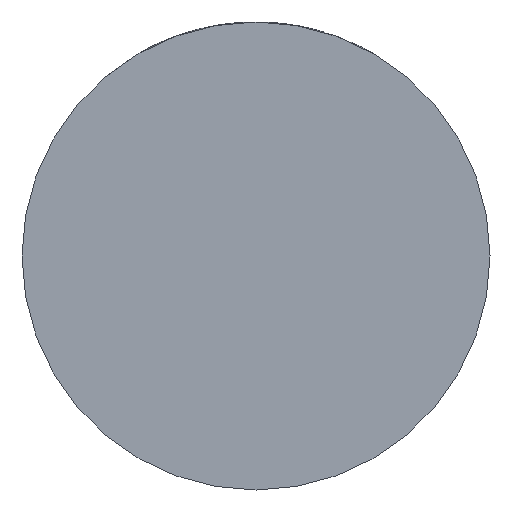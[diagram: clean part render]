
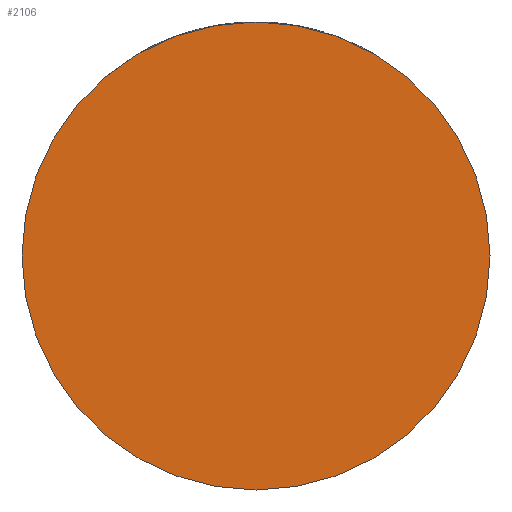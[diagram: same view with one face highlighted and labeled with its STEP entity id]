
A CAD part, front view. The second image highlights one B-rep face of the part: STEP entity #2106.
In plain terms, the highlighted planar face has unit normal (0, -1, 0).
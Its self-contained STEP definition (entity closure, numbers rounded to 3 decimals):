
#471 = DIRECTION ( 'NONE',  ( 0., 1., 0. ) ) ;
#597 = VERTEX_POINT ( 'NONE', #2028 ) ;
#872 = VERTEX_POINT ( 'NONE', #2509 ) ;
#920 = AXIS2_PLACEMENT_3D ( 'NONE', #3582, #4412, #1924 ) ;
#1517 = DIRECTION ( 'NONE',  ( 0., -1., 0. ) ) ;
#1588 = PLANE ( 'NONE',  #1929 ) ;
#1686 = ORIENTED_EDGE ( 'NONE', *, *, #4824, .F. ) ;
#1700 = CARTESIAN_POINT ( 'NONE',  ( 0., -13., 0. ) ) ;
#1879 = EDGE_CURVE ( 'NONE', #872, #597, #4862, .T. ) ;
#1924 = DIRECTION ( 'NONE',  ( 0., 0., 1. ) ) ;
#1925 = AXIS2_PLACEMENT_3D ( 'NONE', #1700, #471, #2966 ) ;
#1929 = AXIS2_PLACEMENT_3D ( 'NONE', #1984, #1517, #3158 ) ;
#1984 = CARTESIAN_POINT ( 'NONE',  ( 0., -13., 0. ) ) ;
#2009 = FACE_OUTER_BOUND ( 'NONE', #3127, .T. ) ;
#2028 = CARTESIAN_POINT ( 'NONE',  ( 0., -13., 20. ) ) ;
#2106 = ADVANCED_FACE ( 'NONE', ( #2009 ), #1588, .T. ) ;
#2509 = CARTESIAN_POINT ( 'NONE',  ( 0., -13., -20. ) ) ;
#2966 = DIRECTION ( 'NONE',  ( 0., 0., 1. ) ) ;
#3127 = EDGE_LOOP ( 'NONE', ( #1686, #3645 ) ) ;
#3158 = DIRECTION ( 'NONE',  ( 0., 0., -1. ) ) ;
#3234 = CIRCLE ( 'NONE', #920, 20. ) ;
#3582 = CARTESIAN_POINT ( 'NONE',  ( 0., -13., 0. ) ) ;
#3645 = ORIENTED_EDGE ( 'NONE', *, *, #1879, .F. ) ;
#4412 = DIRECTION ( 'NONE',  ( 0., 1., 0. ) ) ;
#4824 = EDGE_CURVE ( 'NONE', #597, #872, #3234, .T. ) ;
#4862 = CIRCLE ( 'NONE', #1925, 20. ) ;
